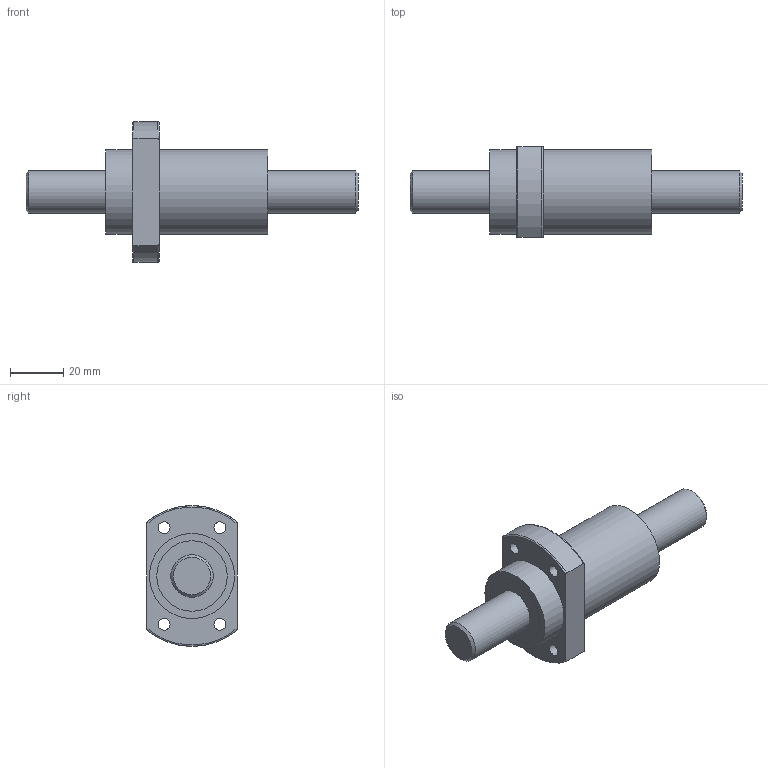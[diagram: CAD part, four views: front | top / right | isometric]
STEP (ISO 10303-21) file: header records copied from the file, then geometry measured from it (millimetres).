
FILE_DESCRIPTION(/* description */ (''),/* implementation_level */ '2;1');
FILE_NAME(/* name */ 'SFY16161.stp',/* time_stamp */ '2014-02-21T09:58:57+08:00',/* author */ (''),/* organization */ (''),/* preprocessor_version */ 'ST-DEVELOPER v11',/* originating_system */ 'SIEMENS UGS NX 6.0',/* authorisation */ '');
FILE_SCHEMA (('CONFIG_CONTROL_DESIGN'));
Length unit declared in the file: millimetre
Products named in the file (1): fann4717bkb5
Bounding box: 125 x 34 x 53 mm (x, y, z)
Volume: 69885.9 mm3; surface area: 23669.4 mm2
Topology: 4 solids, 4 shells, 52 faces, 101 edges, 69 vertices
Faces by surface type: cylinder 24, plane 22, torus 4, cone 2
Full cylindrical faces by diameter (mm): 4.5 x4, 16 x4, 24 x4, 26.5 x4, 28 x4, 32 x2
Entity records: 1400 total; most frequent: CARTESIAN_POINT 317, DIRECTION 222, ORIENTED_EDGE 140, AXIS2_PLACEMENT_3D 107, EDGE_LOOP 102, FACE_BOUND 92, EDGE_CURVE 70, VERTEX_POINT 62
